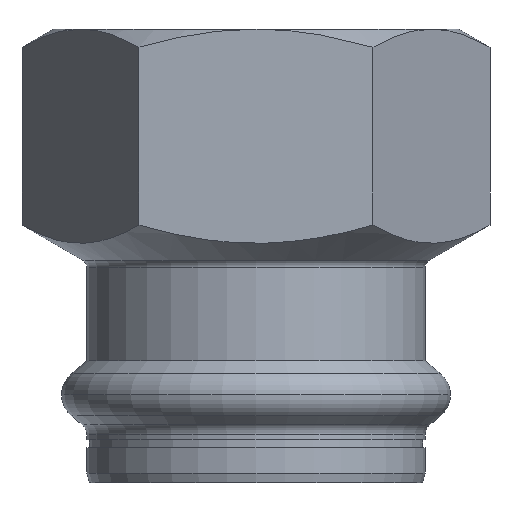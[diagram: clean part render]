
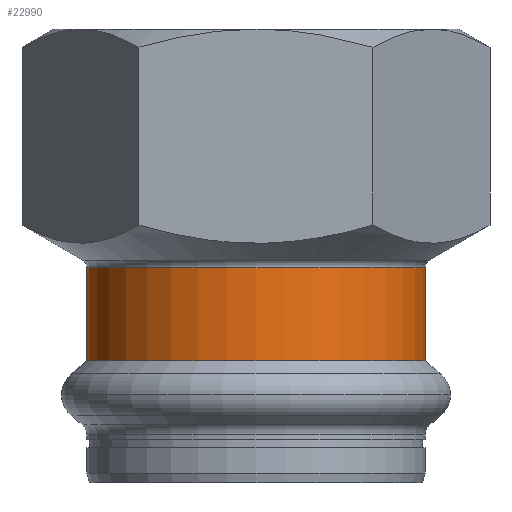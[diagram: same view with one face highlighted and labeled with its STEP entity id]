
A CAD part, front view. The second image highlights one B-rep face of the part: STEP entity #22990.
In plain terms, the highlighted cylindrical face has radius 19.2 mm (diameter 38.4 mm), a partial arc.
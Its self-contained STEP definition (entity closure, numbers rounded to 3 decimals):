
#540=CARTESIAN_POINT('',(38.4,7.65,0.));
#550=VERTEX_POINT('',#540);
#730=CARTESIAN_POINT('',(0.,7.65,
0.));
#740=VERTEX_POINT('',#730);
#770=CARTESIAN_POINT('',(19.2,7.65,0.));
#780=DIRECTION('',(0.,1.,0.));
#790=DIRECTION('',(-1.,0.,0.));
#800=AXIS2_PLACEMENT_3D('',#770,#780,#790);
#810=CIRCLE('',#800,19.2);
#820=EDGE_CURVE('',#550,#740,#810,.T.);
#870=CARTESIAN_POINT('',(19.2,3.825,0.));
#880=DIRECTION('',(0.,-1.,0.));
#890=DIRECTION('',(-1.,0.,0.));
#900=AXIS2_PLACEMENT_3D('',#870,#880,#890);
#910=CYLINDRICAL_SURFACE('',#900,19.2);
#920=CARTESIAN_POINT('',(0.,3.825,0.));
#930=DIRECTION('',(0.,-1.,0.));
#940=VECTOR('',#930,1.);
#950=LINE('',#920,#940);
#960=CARTESIAN_POINT('',(0.,-2.923,0.));
#970=VERTEX_POINT('',#960);
#980=EDGE_CURVE('',#740,#970,#950,.T.);
#1020=CARTESIAN_POINT('',(38.4,3.825,0.));
#1030=DIRECTION('',(0.,-1.,0.));
#1040=VECTOR('',#1030,1.);
#1050=LINE('',#1020,#1040);
#1060=CARTESIAN_POINT('',(38.4,-2.923,0.));
#1070=VERTEX_POINT('',#1060);
#1080=EDGE_CURVE('',#550,#1070,#1050,.T.);
#1100=CARTESIAN_POINT('',(19.2,-2.923,0.));
#1110=DIRECTION('',(0.,-1.,0.));
#1120=DIRECTION('',(1.,0.,0.));
#1130=AXIS2_PLACEMENT_3D('',#1100,#1110,#1120);
#1140=CIRCLE('',#1130,19.2);
#22920=ORIENTED_EDGE('',*,*,#980,.F.);
#22930=EDGE_CURVE('',#970,#1070,#1140,.T.);
#22940=ORIENTED_EDGE('',*,*,#22930,.F.);
#22950=ORIENTED_EDGE('',*,*,#1080,.T.);
#22960=ORIENTED_EDGE('',*,*,#820,.F.);
#22970=EDGE_LOOP('',(#22960,#22950,#22940,#22920));
#22980=FACE_OUTER_BOUND('',#22970,.T.);
#22990=ADVANCED_FACE('',(#22980),#910,.T.);
